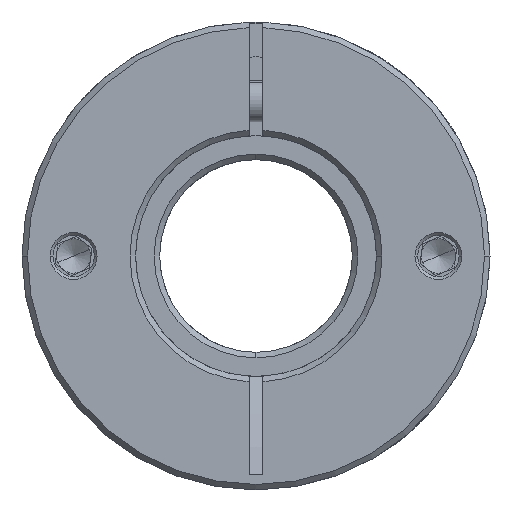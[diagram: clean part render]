
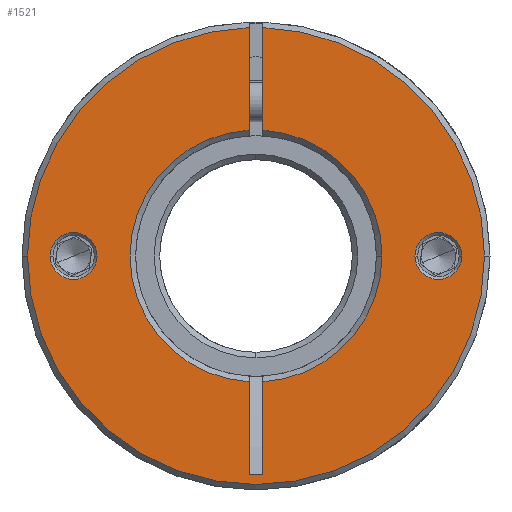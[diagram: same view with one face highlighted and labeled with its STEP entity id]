
A CAD part, front view. The second image highlights one B-rep face of the part: STEP entity #1521.
In plain terms, the highlighted planar face has unit normal (0, -1, 0).
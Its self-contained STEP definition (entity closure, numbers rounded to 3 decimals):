
#62 = VECTOR ( 'NONE', #9252, 1000. ) ;
#80 = DIRECTION ( 'NONE',  ( 1., 0., 0. ) ) ;
#114 = CIRCLE ( 'NONE', #7344, 18.3 ) ;
#306 = EDGE_CURVE ( 'NONE', #9232, #6566, #10550, .T. ) ;
#352 = CARTESIAN_POINT ( 'NONE',  ( -25.835, -47.045, 68. ) ) ;
#444 = CARTESIAN_POINT ( 'NONE',  ( -3.735, -47.045, 36.279 ) ) ;
#566 = PLANE ( 'NONE',  #7135 ) ;
#979 = VERTEX_POINT ( 'NONE', #1658 ) ;
#1086 = EDGE_LOOP ( 'NONE', ( #11986, #4217 ) ) ;
#1219 = VECTOR ( 'NONE', #5671, 1000. ) ;
#1306 = LINE ( 'NONE', #444, #6106 ) ;
#1521 = ADVANCED_FACE ( 'NONE', ( #6762, #3094, #4515 ), #566, .T. ) ;
#1630 = CIRCLE ( 'NONE', #12003, 33.2 ) ;
#1655 = CIRCLE ( 'NONE', #12103, 18.3 ) ;
#1658 = CARTESIAN_POINT ( 'NONE',  ( 27.165, -47.045, 68. ) ) ;
#1663 = CARTESIAN_POINT ( 'NONE',  ( -32.635, -47.045, 68. ) ) ;
#1669 = CARTESIAN_POINT ( 'NONE',  ( -1.735, -47.045, 68. ) ) ;
#1699 = CARTESIAN_POINT ( 'NONE',  ( -1.735, -47.045, 86.273 ) ) ;
#1823 = ORIENTED_EDGE ( 'NONE', *, *, #6931, .F. ) ;
#2105 = DIRECTION ( 'NONE',  ( 1., 0., 0. ) ) ;
#2198 = AXIS2_PLACEMENT_3D ( 'NONE', #12002, #5819, #2772 ) ;
#2217 = EDGE_CURVE ( 'NONE', #5465, #9854, #12082, .T. ) ;
#2280 = VECTOR ( 'NONE', #11949, 1000. ) ;
#2289 = ORIENTED_EDGE ( 'NONE', *, *, #5287, .T. ) ;
#2530 = AXIS2_PLACEMENT_3D ( 'NONE', #5260, #12474, #6274 ) ;
#2634 = EDGE_LOOP ( 'NONE', ( #5617, #10358, #10114, #11017, #12397, #3998, #2289, #10958, #6779, #1823, #6783 ) ) ;
#2698 = VECTOR ( 'NONE', #3046, 1000. ) ;
#2772 = DIRECTION ( 'NONE',  ( 1., 0., 0. ) ) ;
#2822 = DIRECTION ( 'NONE',  ( 0., 1., 0. ) ) ;
#2945 = VERTEX_POINT ( 'NONE', #352 ) ;
#3046 = DIRECTION ( 'NONE',  ( 0., 0., -1. ) ) ;
#3094 = FACE_BOUND ( 'NONE', #1086, .T. ) ;
#3152 = VERTEX_POINT ( 'NONE', #10341 ) ;
#3274 = DIRECTION ( 'NONE',  ( 1., 0., 0. ) ) ;
#3417 = EDGE_LOOP ( 'NONE', ( #6067, #7880 ) ) ;
#3546 = DIRECTION ( 'NONE',  ( 1., 0., 0. ) ) ;
#3568 = DIRECTION ( 'NONE',  ( -1., 0., 0. ) ) ;
#3614 = CARTESIAN_POINT ( 'NONE',  ( -35.935, -47.045, 68. ) ) ;
#3683 = DIRECTION ( 'NONE',  ( 0., -1., 0. ) ) ;
#3685 = DIRECTION ( 'NONE',  ( 0., -1., 0. ) ) ;
#3806 = CARTESIAN_POINT ( 'NONE',  ( 15.565, -47.045, 68. ) ) ;
#3826 = LINE ( 'NONE', #7085, #2698 ) ;
#3850 = CARTESIAN_POINT ( 'NONE',  ( -3.735, -47.045, 68. ) ) ;
#3870 = CARTESIAN_POINT ( 'NONE',  ( -3.735, -47.045, 101.185 ) ) ;
#3998 = ORIENTED_EDGE ( 'NONE', *, *, #13103, .T. ) ;
#4017 = AXIS2_PLACEMENT_3D ( 'NONE', #12007, #2822, #6806 ) ;
#4135 = AXIS2_PLACEMENT_3D ( 'NONE', #10482, #6423, #9484 ) ;
#4187 = DIRECTION ( 'NONE',  ( 1., 0., 0. ) ) ;
#4194 = CARTESIAN_POINT ( 'NONE',  ( -1.735, -47.045, 36.279 ) ) ;
#4217 = ORIENTED_EDGE ( 'NONE', *, *, #9627, .T. ) ;
#4314 = CARTESIAN_POINT ( 'NONE',  ( -3.735, -47.045, 86.273 ) ) ;
#4515 = FACE_OUTER_BOUND ( 'NONE', #2634, .T. ) ;
#4806 = CARTESIAN_POINT ( 'NONE',  ( 30.465, -47.045, 68. ) ) ;
#5184 = CIRCLE ( 'NONE', #2198, 33.2 ) ;
#5255 = VERTEX_POINT ( 'NONE', #1699 ) ;
#5260 = CARTESIAN_POINT ( 'NONE',  ( -2.735, -47.045, 68. ) ) ;
#5279 = DIRECTION ( 'NONE',  ( 0., 1., 0. ) ) ;
#5287 = EDGE_CURVE ( 'NONE', #10844, #6835, #114, .T. ) ;
#5371 = CARTESIAN_POINT ( 'NONE',  ( -3.735, -47.045, 49.727 ) ) ;
#5446 = EDGE_CURVE ( 'NONE', #10555, #10812, #1306, .T. ) ;
#5465 = VERTEX_POINT ( 'NONE', #3614 ) ;
#5617 = ORIENTED_EDGE ( 'NONE', *, *, #306, .F. ) ;
#5671 = DIRECTION ( 'NONE',  ( 0., 0., -1. ) ) ;
#5780 = DIRECTION ( 'NONE',  ( 1., 0., 0. ) ) ;
#5804 = VERTEX_POINT ( 'NONE', #5371 ) ;
#5819 = DIRECTION ( 'NONE',  ( 0., -1., 0. ) ) ;
#5971 = CIRCLE ( 'NONE', #11654, 3.4 ) ;
#6067 = ORIENTED_EDGE ( 'NONE', *, *, #11647, .T. ) ;
#6106 = VECTOR ( 'NONE', #3568, 1000. ) ;
#6204 = DIRECTION ( 'NONE',  ( 0., 1., 0. ) ) ;
#6228 = CARTESIAN_POINT ( 'NONE',  ( -1.735, -47.045, 101.185 ) ) ;
#6274 = DIRECTION ( 'NONE',  ( 1., 0., 0. ) ) ;
#6283 = CARTESIAN_POINT ( 'NONE',  ( -1.735, -47.045, 68. ) ) ;
#6299 = EDGE_CURVE ( 'NONE', #3152, #979, #7696, .T. ) ;
#6423 = DIRECTION ( 'NONE',  ( 0., 1., 0. ) ) ;
#6566 = VERTEX_POINT ( 'NONE', #4314 ) ;
#6576 = AXIS2_PLACEMENT_3D ( 'NONE', #12376, #11438, #80 ) ;
#6762 = FACE_BOUND ( 'NONE', #3417, .T. ) ;
#6774 = AXIS2_PLACEMENT_3D ( 'NONE', #12058, #3685, #5780 ) ;
#6779 = ORIENTED_EDGE ( 'NONE', *, *, #5446, .T. ) ;
#6783 = ORIENTED_EDGE ( 'NONE', *, *, #7362, .T. ) ;
#6806 = DIRECTION ( 'NONE',  ( 1., 0., 0. ) ) ;
#6835 = VERTEX_POINT ( 'NONE', #6937 ) ;
#6931 = EDGE_CURVE ( 'NONE', #5804, #10812, #3826, .T. ) ;
#6937 = CARTESIAN_POINT ( 'NONE',  ( -1.735, -47.045, 49.727 ) ) ;
#6985 = CIRCLE ( 'NONE', #6576, 3.4 ) ;
#7085 = CARTESIAN_POINT ( 'NONE',  ( -3.735, -47.045, 68. ) ) ;
#7102 = LINE ( 'NONE', #1669, #2280 ) ;
#7135 = AXIS2_PLACEMENT_3D ( 'NONE', #8689, #3683, #3546 ) ;
#7209 = DIRECTION ( 'NONE',  ( 1., 0., 0. ) ) ;
#7344 = AXIS2_PLACEMENT_3D ( 'NONE', #9311, #13130, #4187 ) ;
#7362 = EDGE_CURVE ( 'NONE', #5804, #6566, #9787, .T. ) ;
#7696 = CIRCLE ( 'NONE', #4017, 3.4 ) ;
#7880 = ORIENTED_EDGE ( 'NONE', *, *, #6299, .T. ) ;
#8114 = LINE ( 'NONE', #6283, #62 ) ;
#8270 = DIRECTION ( 'NONE',  ( 0., -1., 0. ) ) ;
#8356 = CARTESIAN_POINT ( 'NONE',  ( 23.765, -47.045, 68. ) ) ;
#8637 = CARTESIAN_POINT ( 'NONE',  ( -3.735, -47.045, 36.279 ) ) ;
#8689 = CARTESIAN_POINT ( 'NONE',  ( -2.735, -47.045, 68. ) ) ;
#9232 = VERTEX_POINT ( 'NONE', #3870 ) ;
#9252 = DIRECTION ( 'NONE',  ( 0., 0., -1. ) ) ;
#9311 = CARTESIAN_POINT ( 'NONE',  ( -2.735, -47.045, 68. ) ) ;
#9351 = CARTESIAN_POINT ( 'NONE',  ( -2.735, -47.045, 68. ) ) ;
#9484 = DIRECTION ( 'NONE',  ( 1., 0., 0. ) ) ;
#9627 = EDGE_CURVE ( 'NONE', #10854, #2945, #11987, .T. ) ;
#9787 = CIRCLE ( 'NONE', #2530, 18.3 ) ;
#9854 = VERTEX_POINT ( 'NONE', #4806 ) ;
#9877 = EDGE_CURVE ( 'NONE', #2945, #10854, #6985, .T. ) ;
#10114 = ORIENTED_EDGE ( 'NONE', *, *, #2217, .T. ) ;
#10341 = CARTESIAN_POINT ( 'NONE',  ( 20.365, -47.045, 68. ) ) ;
#10358 = ORIENTED_EDGE ( 'NONE', *, *, #12476, .T. ) ;
#10482 = CARTESIAN_POINT ( 'NONE',  ( -29.235, -47.045, 68. ) ) ;
#10550 = LINE ( 'NONE', #3850, #1219 ) ;
#10555 = VERTEX_POINT ( 'NONE', #4194 ) ;
#10571 = VERTEX_POINT ( 'NONE', #6228 ) ;
#10812 = VERTEX_POINT ( 'NONE', #8637 ) ;
#10844 = VERTEX_POINT ( 'NONE', #3806 ) ;
#10854 = VERTEX_POINT ( 'NONE', #1663 ) ;
#10958 = ORIENTED_EDGE ( 'NONE', *, *, #12084, .T. ) ;
#11017 = ORIENTED_EDGE ( 'NONE', *, *, #12884, .T. ) ;
#11438 = DIRECTION ( 'NONE',  ( 0., 1., 0. ) ) ;
#11647 = EDGE_CURVE ( 'NONE', #979, #3152, #5971, .T. ) ;
#11654 = AXIS2_PLACEMENT_3D ( 'NONE', #8356, #5279, #3274 ) ;
#11949 = DIRECTION ( 'NONE',  ( 0., 0., -1. ) ) ;
#11986 = ORIENTED_EDGE ( 'NONE', *, *, #9877, .T. ) ;
#11987 = CIRCLE ( 'NONE', #4135, 3.4 ) ;
#12002 = CARTESIAN_POINT ( 'NONE',  ( -2.735, -47.045, 68. ) ) ;
#12003 = AXIS2_PLACEMENT_3D ( 'NONE', #9351, #8270, #2105 ) ;
#12007 = CARTESIAN_POINT ( 'NONE',  ( 23.765, -47.045, 68. ) ) ;
#12058 = CARTESIAN_POINT ( 'NONE',  ( -2.735, -47.045, 68. ) ) ;
#12082 = CIRCLE ( 'NONE', #6774, 33.2 ) ;
#12084 = EDGE_CURVE ( 'NONE', #6835, #10555, #7102, .T. ) ;
#12103 = AXIS2_PLACEMENT_3D ( 'NONE', #12436, #6204, #7209 ) ;
#12376 = CARTESIAN_POINT ( 'NONE',  ( -29.235, -47.045, 68. ) ) ;
#12397 = ORIENTED_EDGE ( 'NONE', *, *, #13165, .T. ) ;
#12436 = CARTESIAN_POINT ( 'NONE',  ( -2.735, -47.045, 68. ) ) ;
#12474 = DIRECTION ( 'NONE',  ( 0., 1., 0. ) ) ;
#12476 = EDGE_CURVE ( 'NONE', #9232, #5465, #1630, .T. ) ;
#12884 = EDGE_CURVE ( 'NONE', #9854, #10571, #5184, .T. ) ;
#13103 = EDGE_CURVE ( 'NONE', #5255, #10844, #1655, .T. ) ;
#13130 = DIRECTION ( 'NONE',  ( 0., 1., 0. ) ) ;
#13165 = EDGE_CURVE ( 'NONE', #10571, #5255, #8114, .T. ) ;
